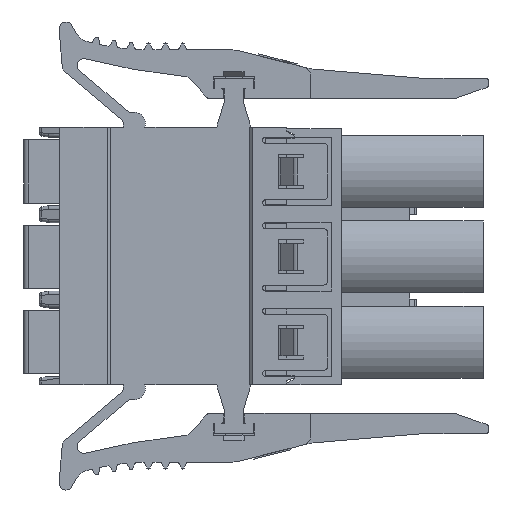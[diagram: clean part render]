
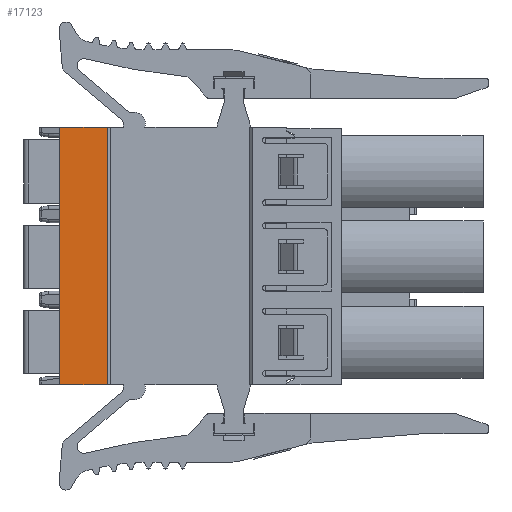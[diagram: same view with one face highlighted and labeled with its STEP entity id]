
A CAD part, left-side view. The second image highlights one B-rep face of the part: STEP entity #17123.
In plain terms, the highlighted planar face has unit normal (-1, 0, 0).
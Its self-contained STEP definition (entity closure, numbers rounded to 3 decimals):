
#1181=DIRECTION('',(0.,1.,0.));
#1182=VECTOR('',#1181,2.8);
#1183=CARTESIAN_POINT('',(0.,12.9,-15.));
#1184=LINE('',#1183,#1182);
#2791=DIRECTION('',(0.,0.,1.));
#2792=VECTOR('',#2791,15.1);
#2793=CARTESIAN_POINT('',(0.,15.7,-30.1));
#2794=LINE('',#2793,#2792);
#2795=DIRECTION('',(0.,0.,-1.));
#2796=VECTOR('',#2795,15.1);
#2797=CARTESIAN_POINT('',(0.,12.9,-15.));
#2798=LINE('',#2797,#2796);
#2799=DIRECTION('',(0.,1.,0.));
#2800=VECTOR('',#2799,2.8);
#2801=CARTESIAN_POINT('',(0.,12.9,-30.1));
#2802=LINE('',#2801,#2800);
#10986=CARTESIAN_POINT('',(0.,15.7,-30.1));
#10987=VERTEX_POINT('',#10986);
#10988=CARTESIAN_POINT('',(0.,12.9,-30.1));
#10989=VERTEX_POINT('',#10988);
#11519=CARTESIAN_POINT('',(0.,12.9,-15.));
#11520=VERTEX_POINT('',#11519);
#11521=CARTESIAN_POINT('',(0.,15.7,-15.));
#11522=VERTEX_POINT('',#11521);
#17111=CARTESIAN_POINT('',(0.,15.7,0.));
#17112=DIRECTION('',(-1.,0.,0.));
#17113=DIRECTION('',(0.,-1.,0.));
#17114=AXIS2_PLACEMENT_3D('',#17111,#17112,#17113);
#17115=PLANE('',#17114);
#17117=ORIENTED_EDGE('',*,*,#17116,.T.);
#17118=ORIENTED_EDGE('',*,*,#14716,.F.);
#17119=ORIENTED_EDGE('',*,*,#17103,.T.);
#17120=ORIENTED_EDGE('',*,*,#14120,.T.);
#17121=EDGE_LOOP('',(#17117,#17118,#17119,#17120));
#17122=FACE_OUTER_BOUND('',#17121,.F.);
#17123=ADVANCED_FACE('',(#17122),#17115,.T.);
#14120=EDGE_CURVE('',#10989,#10987,#2802,.T.);
#14716=EDGE_CURVE('',#11520,#11522,#1184,.T.);
#17103=EDGE_CURVE('',#11520,#10989,#2798,.T.);
#17116=EDGE_CURVE('',#10987,#11522,#2794,.T.);
